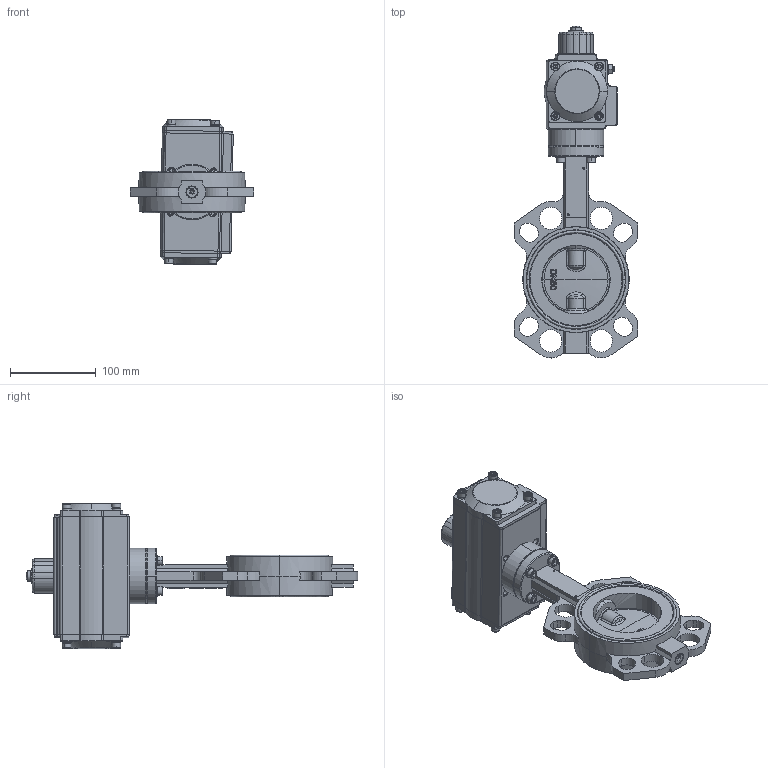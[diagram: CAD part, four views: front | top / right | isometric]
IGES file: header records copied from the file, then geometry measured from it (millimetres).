
Start section: SolidWorks IGES file using NURBS representation for surfaces
Global section: file name: H:\BE BIBLIOTHEQUE 3D\Projet_Biblio3D_2016\FSK\VPI\VPI-N03\VPI-N03 DN 80.Igs; native system: SolidWorks 2014; preprocessor: SolidWorks 2014; author: a.cartier; date: 160929.170758; units: millimetre
Bounding box: 144 x 387.98 x 169.99 mm (x, y, z)
Volume: 1160960.9 mm3; surface area: 315237.9 mm2
Topology: 51 solids, 51 shells, 2673 faces, 6723 edges, 4153 vertices
Faces by surface type: bspline 2673
